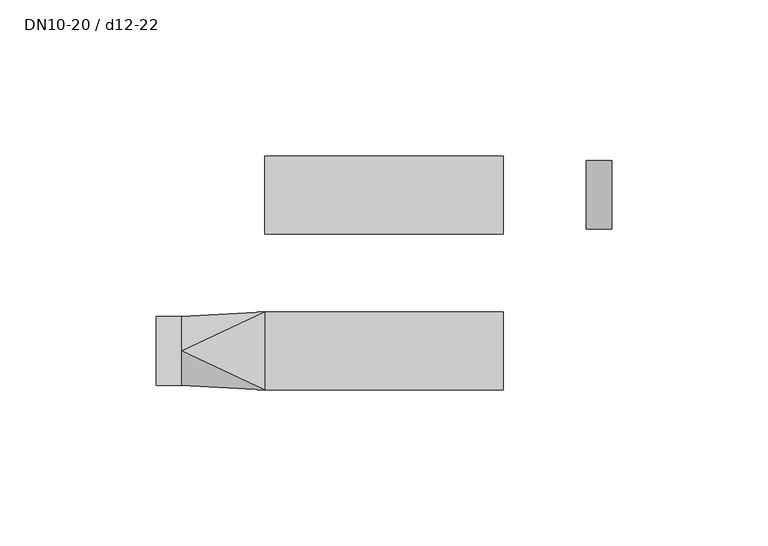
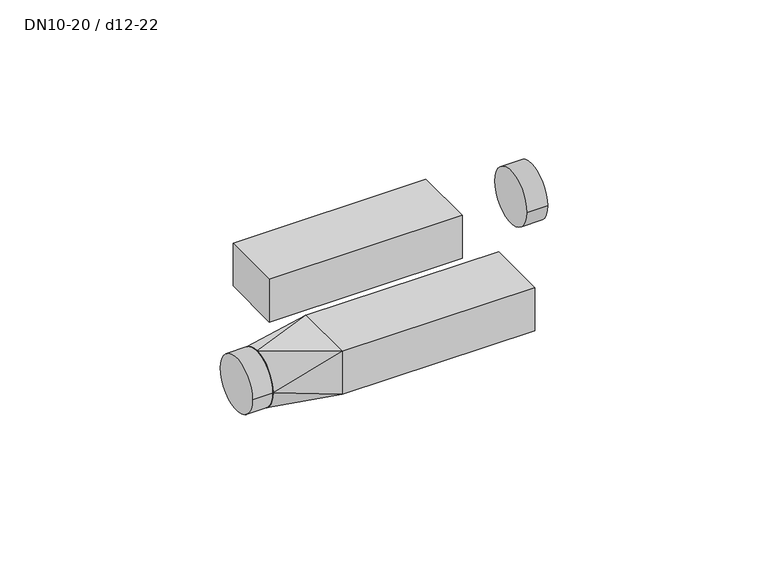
"""IFC4 building model written with IfcOpenShell, lengths in millimetres: pipe fitting geometry, NLRS_50_PIF_UN_Mapress kruising-T-stuk met isolatiebox_geb : DN10-20 / d12-22."""

from ifc_helpers import new_model, si_unit, point, frame, frame_2d, origin, origin_2d, place, context, project, spatial, polyline, circle_curve, trimmed, segment, composite_curve, outline, extrude, source, transform, mapped, element, save
from ifc_brep_helpers import plane_surface, spline_surface, advanced_brep


def dn10_20_d12_22_2ae8da42(model_context):
    return source(origin(), model_context, "Body", "SolidModel", [
        advanced_brep(
        [(-89.75, -60.9999958, 0.0096644), (-89.75, -49.9543377, 10.9999052), (-89.75, -39.0000025, 0.0073889), (-89.75, -50.0011377, -10.9999999), (-63.25, -62.5, 9.0), (-63.25, -62.5, -9.0), (-63.25, -37.5, -9.0), (-63.25, -37.5, 9.0)],
        [
            (0, 1, circle_curve(frame((-89.75, -50.0, 0.0), z_axis=(-1.0, 0.0, 0.0), x_axis=(0.0, 1.0, 0.0)), 11.0)),
            (1, 2, circle_curve(frame((-89.75, -50.0, 0.0), z_axis=(-1.0, 0.0, 0.0), x_axis=(0.0, 1.0, 0.0)), 11.0)),
            (2, 3, circle_curve(frame((-89.75, -50.0, 0.0), z_axis=(-1.0, 0.0, 0.0), x_axis=(0.0, 1.0, 0.0)), 11.0)),
            (3, 0, circle_curve(frame((-89.75, -50.0, 0.0), z_axis=(-1.0, 0.0, 0.0), x_axis=(0.0, 1.0, 0.0)), 11.0)),
            (4, 5),
            (5, 6),
            (6, 7),
            (7, 4),
            (4, 0),
            (0, 5),
            (6, 2),
            (2, 7),
            (4, 1),
            (7, 1),
            (6, 3),
            (5, 3),
        ],
        [
            plane_surface(frame((-89.75, -49.9888684, 0.0042396), z_axis=(-1.0000000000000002, 0.0, 0.0), x_axis=(0.0, -0.9999999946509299, 0.00010343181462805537))),
            plane_surface(frame((-63.25, -50.0, 0.0), z_axis=(1.0000000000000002, 0.0, 0.0), x_axis=(0.0, -0.9999999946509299, 0.00010343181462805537))),
            plane_surface(frame((-63.25, -62.5, 0.0), z_axis=(-0.056513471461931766, -0.9984018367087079, 0.0), x_axis=(0.0, 0.0, 1.0))),
            plane_surface(frame((-63.25, -37.5, 0.0), z_axis=(-0.05651340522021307, 0.9984018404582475, 0.0), x_axis=(0.0, 0.0, -1.0))),
            spline_surface(2, 1, [[(-63.25, -62.5, 9.0), (-89.75, -60.9999958, 0.0096644)], [(-63.25, -62.5, 9.0), (-89.75, -60.99598340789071, 4.5765590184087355)], [(-63.25, -62.5, 9.0), (-89.75, -57.75858903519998, 7.7977110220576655)], [(-63.25, -62.5, 9.0), (-89.75, -54.52119472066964, 11.01886302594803)], [(-63.25, -62.5, 9.0), (-89.75, -49.9543377, 10.9999052)]], [3, 2, 3], [2, 2], [0.0, 1.0, 2.0], [0.0, 1.0], weights=[[1.0, 1.0], [0.9235661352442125, 0.9235661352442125], [1.0, 1.0], [0.9235661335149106, 0.9235661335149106], [1.0, 1.0]]),
            plane_surface(frame((-63.25, -50.0, 9.0), z_axis=(0.07525412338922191, 0.0, 0.9971643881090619), x_axis=(0.0, 1.0, 0.0))),
            spline_surface(2, 1, [[(-63.25, -37.5, 9.0), (-89.75, -49.9543377, 10.9999052)], [(-63.25, -37.5, 9.0), (-89.75, -39.00735585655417, 10.954462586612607)], [(-63.25, -37.5, 9.0), (-89.75, -39.0000025, 0.0073889)]], [3, 3], [2, 2], [0.0, 1.0], [0.0, 1.0], weights=[[1.0, 1.0], [0.7088098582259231, 0.7088098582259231], [1.0, 1.0]]),
            spline_surface(2, 1, [[(-63.25, -37.5, -9.0), (-89.75, -39.0000025, 0.0073889)], [(-63.25, -37.5, -9.0), (-89.75, -38.99694023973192, -4.551456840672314)], [(-63.25, -37.5, -9.0), (-89.75, -42.219615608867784, -7.775964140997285)], [(-63.25, -37.5, -9.0), (-89.75, -45.442290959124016, -11.000471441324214)], [(-63.25, -37.5, -9.0), (-89.75, -50.0011377, -10.9999999)]], [3, 2, 3], [2, 2], [0.0, 1.0, 2.0], [0.0, 1.0], weights=[[1.0, 1.0], [0.9238053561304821, 0.9238053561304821], [1.0, 1.0], [0.9238053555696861, 0.9238053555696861], [1.0, 1.0]]),
            plane_surface(frame((-63.25, -50.0, -9.0), z_axis=(0.07525766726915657, 0.0, -0.9971641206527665), x_axis=(0.0, -1.0, 0.0))),
            spline_surface(2, 1, [[(-63.25, -62.5, -9.0), (-89.75, -50.0011377, -10.9999999)], [(-63.25, -62.5, -9.0), (-89.75, -54.559984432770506, -10.999528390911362)], [(-63.25, -62.5, -9.0), (-89.75, -57.78199271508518, -7.77435453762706)], [(-63.25, -62.5, -9.0), (-89.75, -61.00400099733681, -4.549180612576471)], [(-63.25, -62.5, -9.0), (-89.75, -60.9999958, 0.0096644)]], [3, 2, 3], [2, 2], [0.0, 1.0, 2.0], [0.0, 1.0], weights=[[1.0, 1.0], [0.9238053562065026, 0.9238053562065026], [1.0, 1.0], [0.9238053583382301, 0.9238053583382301], [1.0, 1.0]]),
        ],
        [
            (0, [[1, 2, 3, 4]]),
            (1, [[5, 6, 7, 8]]),
            (2, [[-5, 9, 10]]),
            (3, [[-7, 11, 12]]),
            (4, [[-1, -9, 13]]),
            (5, [[-8, 14, -13]]),
            (6, [[-2, -14, -12]]),
            (7, [[-3, -11, 15]]),
            (8, [[-6, 16, -15]]),
            (9, [[-4, -16, -10]]),
        ],
    ),
        extrude(outline(composite_curve([segment(trimmed(circle_curve(frame_2d((-50.0, 0.0)), 11.0), [point((-39.0, 0.0))], [point((-61.0, 0.0))], False, "CARTESIAN"), True, "CONTINUOUS"), segment(trimmed(circle_curve(frame_2d((-50.0, 0.0)), 11.0), [point((-61.0, 0.0))], [point((-39.0, 0.0))], False, "CARTESIAN"), True, "CONTINUOUS")], self_intersect=False)), frame((-98.0, 0.0, 0.0), z_axis=(1.0, 0.0, 0.0), x_axis=(0.0, 1.0, 0.0)), (0.0, 0.0, 1.0), 8.25),
        extrude(outline(polyline([(13.25, -37.5), (13.25, -62.5), (-63.25, -62.5), (-63.25, -37.5), (13.25, -37.5)])), frame((0.0, 0.0, -9.0), z_axis=(0.0, 0.0, 1.0), x_axis=(1.0, 0.0, 0.0)), (0.0, 0.0, 1.0), 18.0),
        extrude(outline(composite_curve([segment(trimmed(circle_curve(origin_2d(), 11.0), [point((-11.0, 0.0))], [point((11.0, 0.0))], False, "CARTESIAN"), True, "CONTINUOUS"), segment(trimmed(circle_curve(origin_2d(), 11.0), [point((11.0, 0.0))], [point((-11.0, 0.0))], False, "CARTESIAN"), True, "CONTINUOUS")], self_intersect=False)), frame((39.75, 0.0, 0.0), z_axis=(1.0, 0.0, 0.0), x_axis=(0.0, 1.0, 0.0)), (0.0, 0.0, 1.0), 8.25),
        extrude(outline(polyline([(13.25, 12.5), (13.25, -12.5), (-63.25, -12.5), (-63.25, 12.5), (13.25, 12.5)])), frame((0.0, 0.0, -9.0), z_axis=(0.0, 0.0, 1.0), x_axis=(1.0, 0.0, 0.0)), (0.0, 0.0, 1.0), 18.0),
    ])


if __name__ == "__main__":
    model = new_model("IFC4")
    model_context = context("Model", 3, world=origin())
    ifc_project = project(units=[si_unit("LENGTHUNIT", "METRE", prefix="MILLI")], contexts=[model_context])
    site = spatial("IfcSite", under=ifc_project)
    building = spatial("IfcBuilding", under=site)
    placement = place(None, origin())
    dn10_20_d12_22_shape = dn10_20_d12_22_2ae8da42(model_context)
    element("IfcPipeFitting", 1, ObjectType="NLRS_50_PIF_UN_Mapress kruising-T-stuk met isolatiebox_geb : DN10-20 / d12-22", at=placement, inside=building, context=model_context, shape_type="MappedRepresentation", body=[
        mapped(dn10_20_d12_22_shape, transform((0.0, 0.0, 0.0), x_axis=(1.0, 0.0, 0.0), y_axis=(0.0, 1.0, 0.0), z_axis=(0.0, 0.0, 1.0))),
    ])
    save(model, "model.ifc")
